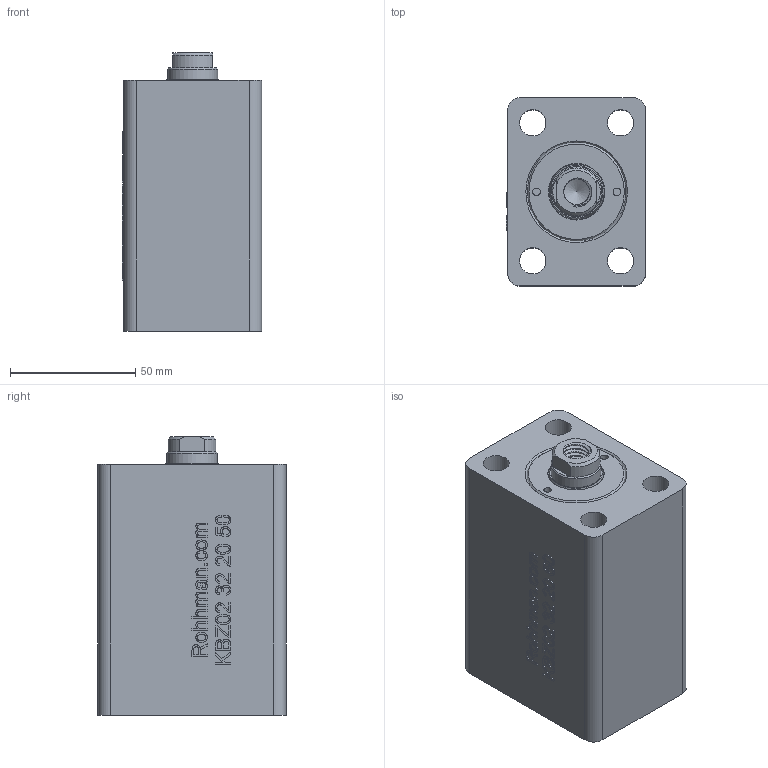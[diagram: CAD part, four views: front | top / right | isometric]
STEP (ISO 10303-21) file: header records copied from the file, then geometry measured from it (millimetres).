
FILE_DESCRIPTION(/* description */ (''),/* implementation_level */ '2;1');
FILE_NAME(/* name */ 'C:/Users/TEKNO/YandexDisk/Traceparts/SelfPublishingProductsCatalogBasicTemplate_KINETICTR.xlsm/KBZ_02_32_20_50.step',/* time_stamp */ '2022-10-02T11:14:11+03:00',/* author */ (''),/* organization */ (''),/* preprocessor_version */ 'ST-DEVELOPER v19',/* originating_system */ 'Autodesk Translation Framework v11.7.0.108',/* authorisation */ '');
FILE_SCHEMA (('AUTOMOTIVE_DESIGN { 1 0 10303 214 3 1 1 }'));
Products named in the file (10): KBZ_02_32_20_40_WEB; KBZ_02_32-20_ON_KAPAK; 20_23_8; Component1; K06-20X25X4_3X6; K22-20X26X3_5; KBZ_02_32_40_GOVDE; Component1_1; 20_K_MIL_40_WEB; Component1_2
Assembly tree (9 placements, depth 4):
  KBZ_02_32_20_40_WEB
    KBZ_02_32-20_ON_KAPAK
      20_23_8
        Component1
      K06-20X25X4_3X6
      K22-20X26X3_5
    KBZ_02_32_40_GOVDE
      Component1_1
    20_K_MIL_40_WEB
      Component1_2
Bounding box: 55.5 x 75 x 111 mm (x, y, z)
Volume: 319352.5 mm3; surface area: 74571.6 mm2
Topology: 6 solids, 6 shells, 756 faces, 2037 edges, 1345 vertices
Faces by surface type: bspline 363, plane 208, cylinder 133, cone 43, torus 9
Full cylindrical faces by diameter (mm): 3 x4, 9.836 x5, 10.274 x7, 10.5 x4, 11.834 x6, 12.226 x8, 13.157 x14, 16 x1, 16.5 x4, 20 x2, 20.4 x1, 20.5 x2, 21.2 x1, 22 x1, 23 x2, 25 x2, 26 x2, 30.4 x1, 32 x1, 35 x2, 35.5 x1, 38.132 x8, 38.526 x8, 39.85 x8, 40.208 x9
Entity records: 44141 total; most frequent: CARTESIAN_POINT 27641, ORIENTED_EDGE 4064, DIRECTION 2125, EDGE_CURVE 2032, VERTEX_POINT 1343, B_SPLINE_CURVE_WITH_KNOTS 930, LINE 893, VECTOR 893
